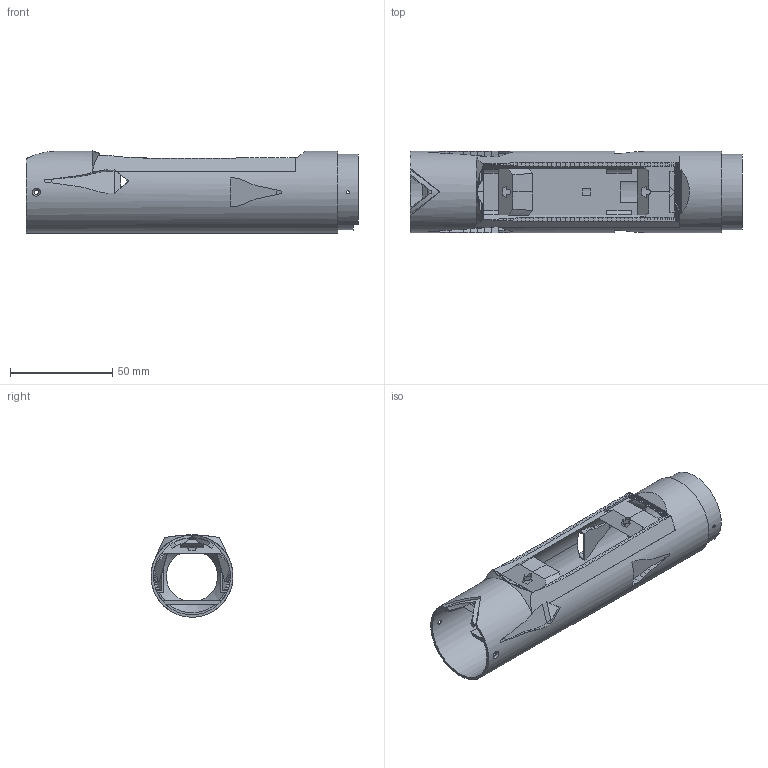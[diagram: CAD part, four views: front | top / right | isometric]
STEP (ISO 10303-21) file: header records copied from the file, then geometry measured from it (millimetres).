
FILE_DESCRIPTION(('Open CASCADE Model'),'2;1');
FILE_NAME('Open CASCADE Shape Model','2026-10-07T11:47:16',('Author'),( 'Open CASCADE'),'Open CASCADE STEP processor 7.9','Open CASCADE 7.9' ,'Unknown');
FILE_SCHEMA(('AUTOMOTIVE_DESIGN { 1 0 10303 214 1 1 1 1 }'));
Length unit declared in the file: millimetre
Products named in the file (5): Open CASCADE STEP translator 7.9 12; Open CASCADE STEP translator 7.9 12.1; Open CASCADE STEP translator 7.9 12.1.1; Open CASCADE STEP translator 7.9 12.1.2; Open CASCADE STEP translator 7.9 12.1.3
Assembly tree (4 placements, depth 3):
  Open CASCADE STEP translator 7.9 12
    Open CASCADE STEP translator 7.9 12.1
      Open CASCADE STEP translator 7.9 12.1.1
      Open CASCADE STEP translator 7.9 12.1.2
      Open CASCADE STEP translator 7.9 12.1.3
Bounding box: 162 x 40 x 40.27 mm (x, y, z)
Volume: 35861.1 mm3; surface area: 44941.1 mm2
Topology: 1 solids, 3 shells, 511 faces, 1580 edges, 1056 vertices
Faces by surface type: plane 372, bspline 84, cylinder 50, cone 5
Full cylindrical faces by diameter (mm): 1.6 x3, 2.2 x2, 25 x1, 33.8 x1, 37 x1, 37.6 x2, 40 x1
Entity records: 57960 total; most frequent: CARTESIAN_POINT 30746, DIRECTION 3688, ORIENTED_EDGE 3148, PCURVE 3146, DEFINITIONAL_REPRESENTATION 3146, LINE 2197, VECTOR 2197, B_SPLINE_CURVE_WITH_KNOTS 2082
